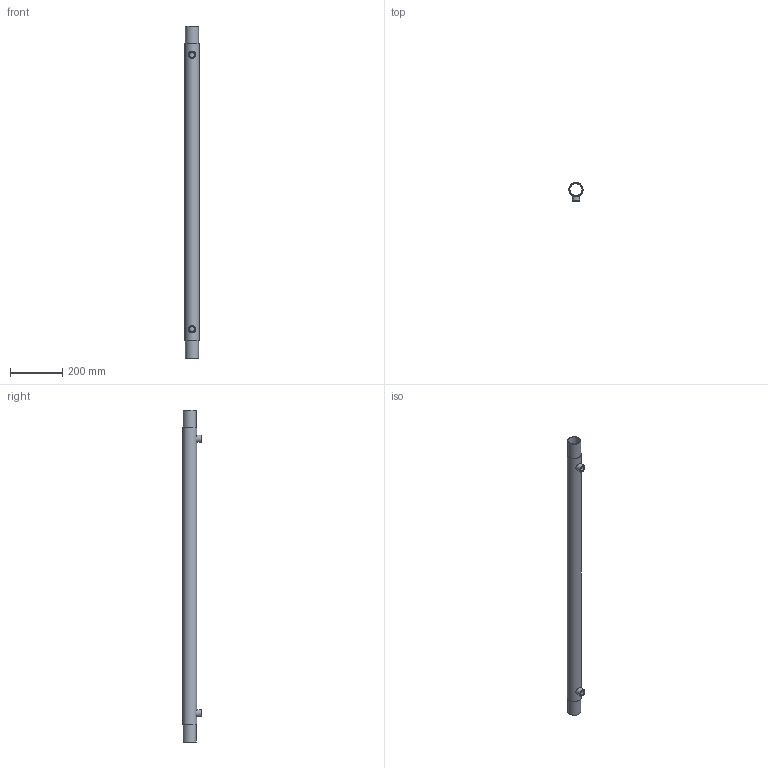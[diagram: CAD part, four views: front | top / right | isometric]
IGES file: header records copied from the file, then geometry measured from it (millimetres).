
Global section: file name: QB1-12; native system: unknown; preprocessor: unknown; author: unknown; organization: unknown; date: 20250722.102637; units: millimetre
Bounding box: 53.95 x 71.95 x 1270 mm (x, y, z)
Volume: 675980.4 mm3; surface area: 768398.1 mm2
Topology: 4 solids, 4 shells, 20 faces, 38 edges, 28 vertices
Faces by surface type: bspline 20
